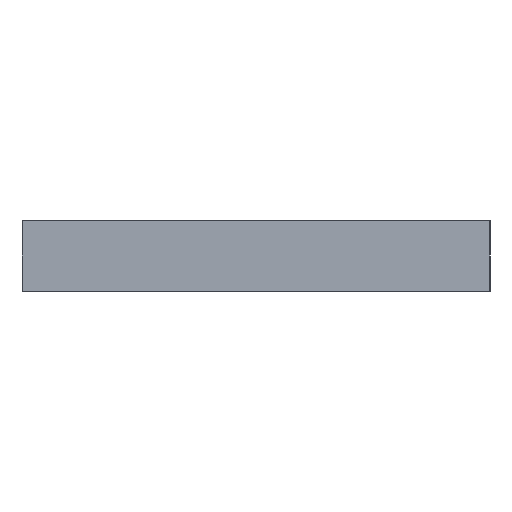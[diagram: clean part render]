
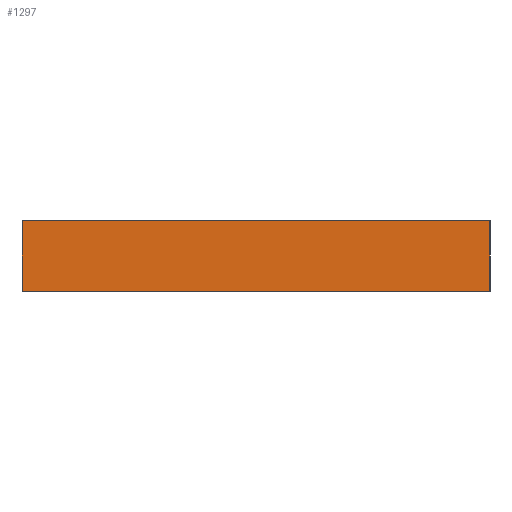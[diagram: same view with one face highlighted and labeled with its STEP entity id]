
A CAD part, left-side view. The second image highlights one B-rep face of the part: STEP entity #1297.
In plain terms, the highlighted planar face has unit normal (-1, 0, 0).
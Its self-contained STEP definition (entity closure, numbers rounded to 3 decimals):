
#72=PLANE('',#1436);
#135=FACE_OUTER_BOUND('',#205,.T.);
#205=EDGE_LOOP('',(#1112,#1113,#1114,#1115));
#252=LINE('',#1869,#373);
#348=LINE('',#2170,#469);
#349=LINE('',#2173,#470);
#350=LINE('',#2174,#471);
#373=VECTOR('',#1482,10.);
#469=VECTOR('',#1798,10.);
#470=VECTOR('',#1801,10.);
#471=VECTOR('',#1802,10.);
#560=VERTEX_POINT('',#1866);
#561=VERTEX_POINT('',#1868);
#656=VERTEX_POINT('',#2167);
#657=VERTEX_POINT('',#2172);
#684=EDGE_CURVE('',#560,#561,#252,.T.);
#836=EDGE_CURVE('',#656,#561,#348,.T.);
#837=EDGE_CURVE('',#656,#657,#349,.T.);
#838=EDGE_CURVE('',#657,#560,#350,.T.);
#1112=ORIENTED_EDGE('',*,*,#837,.F.);
#1113=ORIENTED_EDGE('',*,*,#836,.T.);
#1114=ORIENTED_EDGE('',*,*,#684,.F.);
#1115=ORIENTED_EDGE('',*,*,#838,.F.);
#1297=ADVANCED_FACE('',(#135),#72,.T.);
#1436=AXIS2_PLACEMENT_3D('',#2171,#1799,#1800);
#1482=DIRECTION('',(0.,1.,0.));
#1798=DIRECTION('',(0.,0.,-1.));
#1799=DIRECTION('center_axis',(-1.,0.,0.));
#1800=DIRECTION('ref_axis',(0.,1.,0.));
#1801=DIRECTION('',(0.,-1.,0.));
#1802=DIRECTION('',(0.,0.,-1.));
#1866=CARTESIAN_POINT('',(-35.,-33.,-10.));
#1868=CARTESIAN_POINT('',(-35.,33.,-10.));
#1869=CARTESIAN_POINT('',(-35.,33.,-10.));
#2167=CARTESIAN_POINT('',(-35.,33.,0.));
#2170=CARTESIAN_POINT('',(-35.,33.,0.));
#2171=CARTESIAN_POINT('Origin',(-35.,-33.,0.));
#2172=CARTESIAN_POINT('',(-35.,-33.,0.));
#2173=CARTESIAN_POINT('',(-35.,33.,0.));
#2174=CARTESIAN_POINT('',(-35.,-33.,0.));
